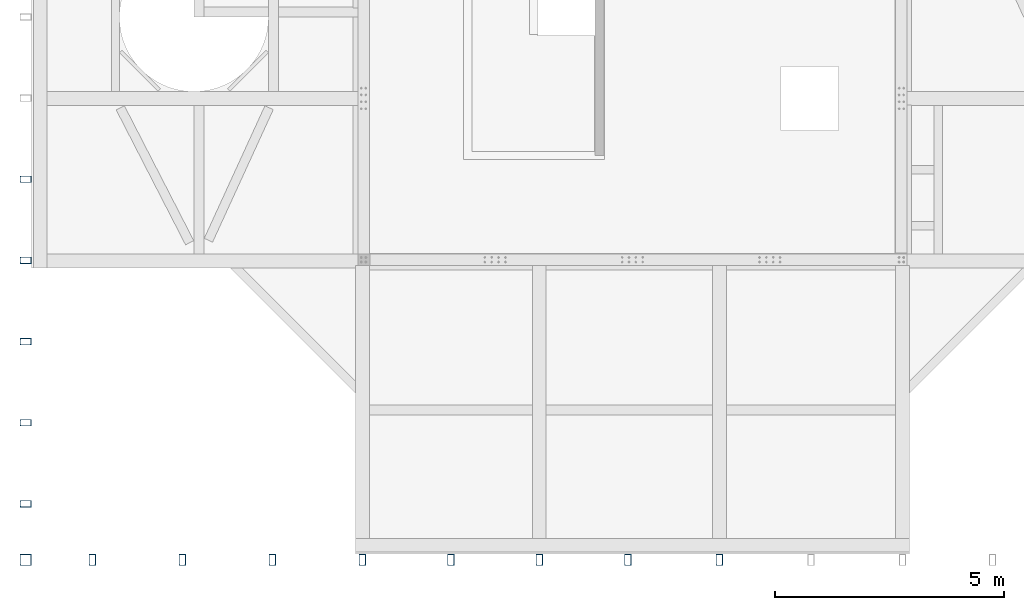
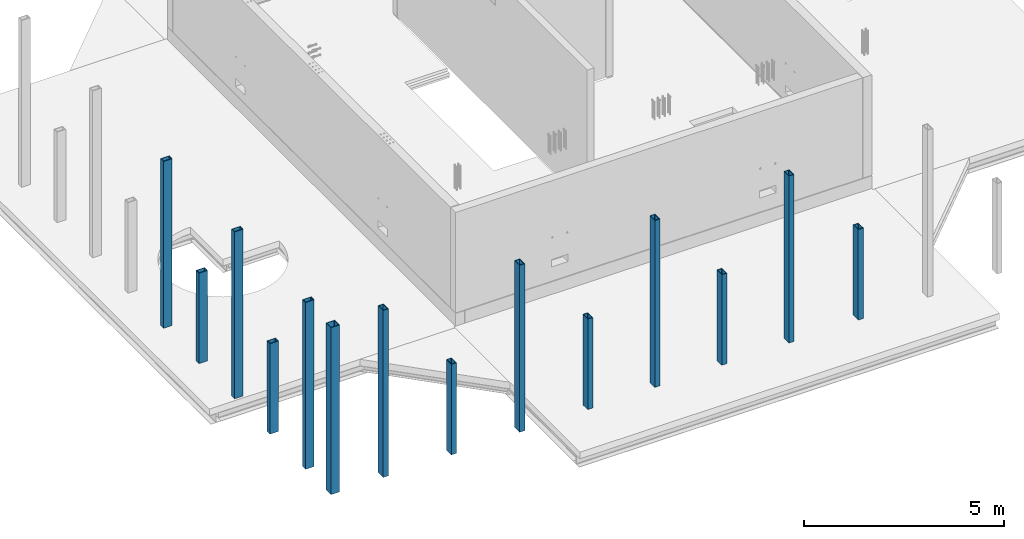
# One storey, part 1 of 16: 14 columns.
"""IFC2X3 building model written with IfcOpenShell, lengths in millimetres."""

from ifc_helpers import new_model, entity, si_unit, converted_unit, derived_unit, direction, frame, frame_2d, origin, place, context, subcontext, project, spatial, polyline, circle_curve, parameter, trimmed, segment, composite_curve, outline, extrude, source, transform, mapped, material, type_object, type_shapes, element, save


model = new_model("IFC2X3")

# Units and contexts
model_context = context("Model", 3, precision=0.01, world=origin(), true_north=direction((6.12303176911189e-17, 1.0)))
body_context = subcontext(model_context, "Body", "Model", "MODEL_VIEW")
ifc_project = project(units=[si_unit("LENGTHUNIT", "METRE", prefix="MILLI"), si_unit("AREAUNIT", "SQUARE_METRE"), si_unit("VOLUMEUNIT", "CUBIC_METRE"), converted_unit("PLANEANGLEUNIT", "DEGREE", entity("IfcRatioMeasure", 0.0174532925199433), si_unit("PLANEANGLEUNIT", "RADIAN"), dimensions=[0, 0, 0, 0, 0, 0, 0]), si_unit("MASSUNIT", "GRAM", prefix="KILO"), derived_unit("MASSDENSITYUNIT", [(si_unit("MASSUNIT", "GRAM", prefix="KILO"), 1), (si_unit("LENGTHUNIT", "METRE"), -3)]), si_unit("TIMEUNIT", "SECOND"), si_unit("FREQUENCYUNIT", "HERTZ"), si_unit("THERMODYNAMICTEMPERATUREUNIT", "DEGREE_CELSIUS"), derived_unit("THERMALTRANSMITTANCEUNIT", [(si_unit("MASSUNIT", "GRAM", prefix="KILO"), 1), (si_unit("THERMODYNAMICTEMPERATUREUNIT", "KELVIN"), -1), (si_unit("TIMEUNIT", "SECOND"), -3)]), derived_unit("VOLUMETRICFLOWRATEUNIT", [(si_unit("LENGTHUNIT", "METRE"), 3), (si_unit("TIMEUNIT", "SECOND"), -1)]), si_unit("ELECTRICCURRENTUNIT", "AMPERE"), si_unit("ELECTRICVOLTAGEUNIT", "VOLT"), si_unit("POWERUNIT", "WATT"), si_unit("FORCEUNIT", "NEWTON", prefix="KILO"), si_unit("ILLUMINANCEUNIT", "LUX"), si_unit("LUMINOUSFLUXUNIT", "LUMEN"), si_unit("LUMINOUSINTENSITYUNIT", "CANDELA"), derived_unit("USERDEFINED", [(si_unit("MASSUNIT", "GRAM", prefix="KILO"), -1), (si_unit("LENGTHUNIT", "METRE"), -2), (si_unit("TIMEUNIT", "SECOND"), 3), (si_unit("LUMINOUSFLUXUNIT", "LUMEN"), 1)]), derived_unit("LINEARVELOCITYUNIT", [(si_unit("LENGTHUNIT", "METRE"), 1), (si_unit("TIMEUNIT", "SECOND"), -1)]), si_unit("PRESSUREUNIT", "PASCAL"), derived_unit("USERDEFINED", [(si_unit("LENGTHUNIT", "METRE"), -2), (si_unit("MASSUNIT", "GRAM", prefix="KILO"), 1), (si_unit("TIMEUNIT", "SECOND"), -2)])], contexts=[model_context])

# Site, building, storey
site_placement = place(None, origin())
site = spatial("IfcSite", under=ifc_project, at=site_placement, Name="Default", CompositionType="ELEMENT")
building_placement = place(site_placement, origin())
building = spatial("IfcBuilding", under=site, at=building_placement, Name="niet gebruiken", CompositionType="ELEMENT")
storey_placement = place(building_placement, frame((0.0, 0.0, 183150.0)))
storey = spatial("IfcBuildingStorey", under=building, at=storey_placement, Name="58 achtenvijftigste verdieping", CompositionType="ELEMENT", Elevation=183150.0)

# Columns
ifc_material = material(Name="NLRS_h2_staal")
column_type_1 = type_object("IfcColumnType", Name="kolom buisprofiel rechthoekig RHSH_250x150x16", PredefinedType="COLUMN", material=ifc_material)
shared_shape_1 = source(origin(), body_context, "Body", "SweptSolid", [
    extrude(outline(polyline([(-125.0, -75.0), (125.0, -75.0), (125.0, 75.0), (-125.0, 75.0), (-125.0, -75.0)]), holes=[composite_curve([segment(trimmed(circle_curve(frame_2d((-96.5, -46.5), x_axis=(0.0, 1.0)), 12.5), [parameter(90.0)], [parameter(180.0)], True, "PARAMETER"), False, "CONTINUOUS"), segment(polyline([(-109.0, -46.5), (-109.0, 46.5)]), True, "CONTINUOUS"), segment(trimmed(circle_curve(frame_2d((-96.5, 46.5), x_axis=(0.0, 1.0)), 12.5), [parameter(360.0)], [parameter(89.9999999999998)], True, "PARAMETER"), False, "CONTINUOUS"), segment(polyline([(-96.5, 59.0), (96.5, 59.0)]), True, "CONTINUOUS"), segment(trimmed(circle_curve(frame_2d((96.5, 46.5), x_axis=(0.0, 1.0)), 12.5), [parameter(270.0)], [parameter(360.0)], True, "PARAMETER"), False, "CONTINUOUS"), segment(polyline([(109.0, 46.5), (109.0, -46.5)]), True, "CONTINUOUS"), segment(trimmed(circle_curve(frame_2d((96.5, -46.5), x_axis=(0.0, 1.0)), 12.5), [parameter(180.0)], [parameter(270.0)], True, "PARAMETER"), False, "CONTINUOUS"), segment(polyline([(96.5, -59.0), (-96.5, -59.0)]), True, "CONTINUOUS")], self_intersect=False)]), frame((129950.0, 3870.0, 184200.0), z_axis=(0.0, 0.0, 1.0), x_axis=(0.0, -1.0, 0.0)), (0.0, 0.0, 1.0), 5089.99999999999),
])
type_shapes(column_type_1, [shared_shape_1])
column_1_placement = place(storey_placement, frame((0.0, 0.0, -183150.0)))
element("IfcColumn", 1, at=column_1_placement, inside=storey, type_object=column_type_1, material=ifc_material, Name="NLRS_28.11_SCO_TLB_stalen kolom buisprofiel rechthoekig_gen:kolom buisprofiel rechthoekig RHSH_250x150x16", ObjectType="kolom buisprofiel rechthoekig RHSH_250x150x16", context=body_context, shape_type="MappedRepresentation", body=[
    mapped(shared_shape_1, transform((0.0, 0.0, 0.0), scale=1.0)),
])
column_type_2 = type_object("IfcColumnType", Name="kolom buisprofiel warmgevormd vierkant SHSH_250x250x16", PredefinedType="COLUMN", material=ifc_material)
shared_shape_2 = source(origin(), body_context, "Body", "SweptSolid", [
    extrude(outline(polyline([(-125.0, -125.0), (125.0, -125.0), (125.0, 125.0), (-125.0, 125.0), (-125.0, -125.0)]), holes=[composite_curve([segment(trimmed(circle_curve(frame_2d((-99.0, -99.0), x_axis=(0.0, 1.0)), 10.0), [parameter(90.0000000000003)], [parameter(180.0)], True, "PARAMETER"), False, "CONTINUOUS"), segment(polyline([(-109.0, -99.0), (-109.0, 99.0)]), True, "CONTINUOUS"), segment(trimmed(circle_curve(frame_2d((-99.0, 99.0), x_axis=(0.0, 1.0)), 10.0), [parameter(0.0)], [parameter(89.9999999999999)], True, "PARAMETER"), False, "CONTINUOUS"), segment(polyline([(-99.0, 109.0), (99.0, 109.0)]), True, "CONTINUOUS"), segment(trimmed(circle_curve(frame_2d((99.0, 99.0), x_axis=(0.0, 1.0)), 10.0), [parameter(270.0)], [parameter(360.0)], True, "PARAMETER"), False, "CONTINUOUS"), segment(polyline([(109.0, 99.0), (109.0, -99.0)]), True, "CONTINUOUS"), segment(trimmed(circle_curve(frame_2d((99.0, -99.0), x_axis=(0.0, 1.0)), 10.0), [parameter(180.0)], [parameter(270.0)], True, "PARAMETER"), False, "CONTINUOUS"), segment(polyline([(99.0, -109.0), (-99.0, -109.0)]), True, "CONTINUOUS")], self_intersect=False)]), frame((128495.0, 3870.0, 184200.0), z_axis=(0.0, 0.0, 1.0), x_axis=(0.0, -1.0, 0.0)), (0.0, 0.0, 1.0), 5089.99999999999),
])
type_shapes(column_type_2, [shared_shape_2])
column_2_placement = place(storey_placement, frame((0.0, 0.0, -183150.0)))
element("IfcColumn", 2, at=column_2_placement, inside=storey, type_object=column_type_2, material=ifc_material, Name="NLRS_28.11_SCO_TLB_stalen kolom buisprofiel warmgevormd vierkant_gen:kolom buisprofiel warmgevormd vierkant SHSH_250x250x16", ObjectType="kolom buisprofiel warmgevormd vierkant SHSH_250x250x16", context=body_context, shape_type="MappedRepresentation", body=[
    mapped(shared_shape_2, transform((0.0, 0.0, 0.0), scale=1.0)),
])
column_type_3 = type_object("IfcColumnType", Name="kolom buisprofiel rechthoekig RHSH_250x150x16", PredefinedType="COLUMN", material=ifc_material)
shared_shape_3 = source(origin(), body_context, "Body", "SweptSolid", [
    extrude(outline(polyline([(-125.0, -75.0), (125.0, -75.0), (125.0, 75.0), (-125.0, 75.0), (-125.0, -75.0)]), holes=[composite_curve([segment(trimmed(circle_curve(frame_2d((-96.5, -46.5), x_axis=(0.0, 1.0)), 12.5), [parameter(90.0)], [parameter(180.0)], True, "PARAMETER"), False, "CONTINUOUS"), segment(polyline([(-109.0, -46.5), (-109.0, 46.5)]), True, "CONTINUOUS"), segment(trimmed(circle_curve(frame_2d((-96.5, 46.5), x_axis=(0.0, 1.0)), 12.5), [parameter(360.0)], [parameter(89.9999999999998)], True, "PARAMETER"), False, "CONTINUOUS"), segment(polyline([(-96.5, 59.0), (96.5, 59.0)]), True, "CONTINUOUS"), segment(trimmed(circle_curve(frame_2d((96.5, 46.5), x_axis=(0.0, 1.0)), 12.5), [parameter(270.0)], [parameter(360.0)], True, "PARAMETER"), False, "CONTINUOUS"), segment(polyline([(109.0, 46.5), (109.0, -46.5)]), True, "CONTINUOUS"), segment(trimmed(circle_curve(frame_2d((96.5, -46.5), x_axis=(0.0, 1.0)), 12.5), [parameter(180.0)], [parameter(270.0)], True, "PARAMETER"), False, "CONTINUOUS"), segment(polyline([(96.5, -59.0), (-96.5, -59.0)]), True, "CONTINUOUS")], self_intersect=False)]), frame((133883.333333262, 3870.0, 184200.0), z_axis=(0.0, 0.0, 1.0), x_axis=(0.0, -1.0, 0.0)), (0.0, 0.0, 1.0), 5089.99999999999),
])
type_shapes(column_type_3, [shared_shape_3])
column_3_placement = place(storey_placement, frame((0.0, 0.0, -183150.0)))
element("IfcColumn", 3, at=column_3_placement, inside=storey, type_object=column_type_3, material=ifc_material, Name="NLRS_28.11_SCO_TLB_stalen kolom buisprofiel rechthoekig_gen:kolom buisprofiel rechthoekig RHSH_250x150x16", ObjectType="kolom buisprofiel rechthoekig RHSH_250x150x16", context=body_context, shape_type="MappedRepresentation", body=[
    mapped(shared_shape_3, transform((0.0, 0.0, 0.0), scale=1.0)),
])
column_type_4 = type_object("IfcColumnType", Name="kolom buisprofiel rechthoekig RHSH_250x150x16", PredefinedType="COLUMN", material=ifc_material)
shared_shape_4 = source(origin(), body_context, "Body", "SweptSolid", [
    extrude(outline(polyline([(-125.0, -75.0), (125.0, -75.0), (125.0, 75.0), (-125.0, 75.0), (-125.0, -75.0)]), holes=[composite_curve([segment(trimmed(circle_curve(frame_2d((-96.5, -46.5), x_axis=(0.0, 1.0)), 12.5), [parameter(90.0)], [parameter(180.0)], True, "PARAMETER"), False, "CONTINUOUS"), segment(polyline([(-109.0, -46.5), (-109.0, 46.5)]), True, "CONTINUOUS"), segment(trimmed(circle_curve(frame_2d((-96.5, 46.5), x_axis=(0.0, 1.0)), 12.5), [parameter(360.0)], [parameter(89.9999999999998)], True, "PARAMETER"), False, "CONTINUOUS"), segment(polyline([(-96.5, 59.0), (96.5, 59.0)]), True, "CONTINUOUS"), segment(trimmed(circle_curve(frame_2d((96.5, 46.5), x_axis=(0.0, 1.0)), 12.5), [parameter(270.0)], [parameter(360.0)], True, "PARAMETER"), False, "CONTINUOUS"), segment(polyline([(109.0, 46.5), (109.0, -46.5)]), True, "CONTINUOUS"), segment(trimmed(circle_curve(frame_2d((96.5, -46.5), x_axis=(0.0, 1.0)), 12.5), [parameter(180.0)], [parameter(270.0)], True, "PARAMETER"), False, "CONTINUOUS"), segment(polyline([(96.5, -59.0), (-96.5, -59.0)]), True, "CONTINUOUS")], self_intersect=False)]), frame((137783.333333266, 3870.0, 184200.0), z_axis=(0.0, 0.0, 1.0), x_axis=(0.0, -1.0, 0.0)), (0.0, 0.0, 1.0), 5089.99999999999),
])
type_shapes(column_type_4, [shared_shape_4])
column_4_placement = place(storey_placement, frame((0.0, 0.0, -183150.0)))
element("IfcColumn", 4, at=column_4_placement, inside=storey, type_object=column_type_4, material=ifc_material, Name="NLRS_28.11_SCO_TLB_stalen kolom buisprofiel rechthoekig_gen:kolom buisprofiel rechthoekig RHSH_250x150x16", ObjectType="kolom buisprofiel rechthoekig RHSH_250x150x16", context=body_context, shape_type="MappedRepresentation", body=[
    mapped(shared_shape_4, transform((0.0, 0.0, 0.0), scale=1.0)),
])
column_type_5 = type_object("IfcColumnType", Name="kolom buisprofiel rechthoekig RHSH_250x150x16", PredefinedType="COLUMN", material=ifc_material)
shared_shape_5 = source(origin(), body_context, "Body", "SweptSolid", [
    extrude(outline(polyline([(-125.0, -75.0), (125.0, -75.0), (125.0, 75.0), (-125.0, 75.0), (-125.0, -75.0)]), holes=[composite_curve([segment(trimmed(circle_curve(frame_2d((-96.4999999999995, -46.4999999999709), x_axis=(0.0, 1.0)), 12.5), [parameter(90.0)], [parameter(180.0)], True, "PARAMETER"), False, "CONTINUOUS"), segment(polyline([(-109.0, -46.4999999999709), (-109.0, 46.5)]), True, "CONTINUOUS"), segment(trimmed(circle_curve(frame_2d((-96.4999999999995, 46.5), x_axis=(0.0, 1.0)), 12.5), [parameter(360.0)], [parameter(89.9999999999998)], True, "PARAMETER"), False, "CONTINUOUS"), segment(polyline([(-96.4999999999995, 59.0), (96.5000000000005, 59.0)]), True, "CONTINUOUS"), segment(trimmed(circle_curve(frame_2d((96.5000000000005, 46.5), x_axis=(0.0, 1.0)), 12.5), [parameter(270.0)], [parameter(360.0)], True, "PARAMETER"), False, "CONTINUOUS"), segment(polyline([(109.0, 46.5), (109.0, -46.4999999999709)]), True, "CONTINUOUS"), segment(trimmed(circle_curve(frame_2d((96.5000000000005, -46.4999999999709), x_axis=(0.0, 1.0)), 12.5), [parameter(180.0)], [parameter(270.0)], True, "PARAMETER"), False, "CONTINUOUS"), segment(polyline([(96.5000000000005, -59.0), (-96.4999999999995, -59.0)]), True, "CONTINUOUS")], self_intersect=False)]), frame((141650.0, 3870.0, 184200.0), z_axis=(0.0, 0.0, 1.0), x_axis=(0.0, -1.0, 0.0)), (0.0, 0.0, 1.0), 5089.99999999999),
])
type_shapes(column_type_5, [shared_shape_5])
column_5_placement = place(storey_placement, frame((0.0, 0.0, -183150.0)))
element("IfcColumn", 5, at=column_5_placement, inside=storey, type_object=column_type_5, material=ifc_material, Name="NLRS_28.11_SCO_TLB_stalen kolom buisprofiel rechthoekig_gen:kolom buisprofiel rechthoekig RHSH_250x150x16", ObjectType="kolom buisprofiel rechthoekig RHSH_250x150x16", context=body_context, shape_type="MappedRepresentation", body=[
    mapped(shared_shape_5, transform((0.0, 0.0, 0.0), scale=1.0)),
])
column_type_6 = type_object("IfcColumnType", Name="kolom buisprofiel rechthoekig RHSH_250x150x16", PredefinedType="COLUMN", material=ifc_material)
shared_shape_6 = source(origin(), body_context, "Body", "SweptSolid", [
    extrude(outline(polyline([(-125.0, -75.0), (125.0, -75.0), (125.0, 75.0), (-125.0, 75.0), (-125.0, -75.0)]), holes=[composite_curve([segment(trimmed(circle_curve(frame_2d((-96.4999999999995, -46.5), x_axis=(0.0, 1.0)), 12.5), [parameter(90.0)], [parameter(180.0)], True, "PARAMETER"), False, "CONTINUOUS"), segment(polyline([(-109.0, -46.5), (-109.0, 46.5)]), True, "CONTINUOUS"), segment(trimmed(circle_curve(frame_2d((-96.4999999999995, 46.5), x_axis=(0.0, 1.0)), 12.5), [parameter(360.0)], [parameter(89.9999999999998)], True, "PARAMETER"), False, "CONTINUOUS"), segment(polyline([(-96.4999999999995, 59.0), (96.5000000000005, 59.0)]), True, "CONTINUOUS"), segment(trimmed(circle_curve(frame_2d((96.5000000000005, 46.5), x_axis=(0.0, 1.0)), 12.5), [parameter(270.0)], [parameter(360.0)], True, "PARAMETER"), False, "CONTINUOUS"), segment(polyline([(109.0, 46.5), (109.0, -46.5)]), True, "CONTINUOUS"), segment(trimmed(circle_curve(frame_2d((96.5000000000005, -46.5), x_axis=(0.0, 1.0)), 12.5), [parameter(180.0)], [parameter(270.0)], True, "PARAMETER"), False, "CONTINUOUS"), segment(polyline([(96.5000000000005, -59.0), (-96.4999999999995, -59.0)]), True, "CONTINUOUS")], self_intersect=False)]), frame((131916.666666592, 3870.0, 184200.0), z_axis=(0.0, 0.0, 1.0), x_axis=(0.0, -1.0, 0.0)), (0.0, 0.0, 1.0), 2760.0),
])
type_shapes(column_type_6, [shared_shape_6])
column_6_placement = place(storey_placement, frame((0.0, 0.0, -183150.0)))
element("IfcColumn", 6, at=column_6_placement, inside=storey, type_object=column_type_6, material=ifc_material, Name="NLRS_28.11_SCO_TLB_stalen kolom buisprofiel rechthoekig_gen:kolom buisprofiel rechthoekig RHSH_250x150x16", ObjectType="kolom buisprofiel rechthoekig RHSH_250x150x16", context=body_context, shape_type="MappedRepresentation", body=[
    mapped(shared_shape_6, transform((0.0, 0.0, 0.0), scale=1.0)),
])
column_type_7 = type_object("IfcColumnType", Name="kolom buisprofiel rechthoekig RHSH_250x150x16", PredefinedType="COLUMN", material=ifc_material)
shared_shape_7 = source(origin(), body_context, "Body", "SweptSolid", [
    extrude(outline(polyline([(-125.0, -75.0), (125.0, -75.0), (125.0, 75.0), (-125.0, 75.0), (-125.0, -75.0)]), holes=[composite_curve([segment(trimmed(circle_curve(frame_2d((-96.4999999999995, -46.5), x_axis=(0.0, 1.0)), 12.5), [parameter(90.0)], [parameter(180.0)], True, "PARAMETER"), False, "CONTINUOUS"), segment(polyline([(-109.0, -46.5), (-109.0, 46.5)]), True, "CONTINUOUS"), segment(trimmed(circle_curve(frame_2d((-96.4999999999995, 46.5), x_axis=(0.0, 1.0)), 12.5), [parameter(360.0)], [parameter(89.9999999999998)], True, "PARAMETER"), False, "CONTINUOUS"), segment(polyline([(-96.4999999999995, 59.0), (96.5000000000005, 59.0)]), True, "CONTINUOUS"), segment(trimmed(circle_curve(frame_2d((96.5000000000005, 46.5), x_axis=(0.0, 1.0)), 12.5), [parameter(270.0)], [parameter(360.0)], True, "PARAMETER"), False, "CONTINUOUS"), segment(polyline([(109.0, 46.5), (109.0, -46.5)]), True, "CONTINUOUS"), segment(trimmed(circle_curve(frame_2d((96.5000000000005, -46.5), x_axis=(0.0, 1.0)), 12.5), [parameter(180.0)], [parameter(270.0)], True, "PARAMETER"), False, "CONTINUOUS"), segment(polyline([(96.5000000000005, -59.0), (-96.4999999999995, -59.0)]), True, "CONTINUOUS")], self_intersect=False)]), frame((135850.0, 3870.0, 184200.0), z_axis=(0.0, 0.0, 1.0), x_axis=(0.0, -1.0, 0.0)), (0.0, 0.0, 1.0), 2760.0),
])
type_shapes(column_type_7, [shared_shape_7])
column_7_placement = place(storey_placement, frame((0.0, 0.0, -183150.0)))
element("IfcColumn", 7, at=column_7_placement, inside=storey, type_object=column_type_7, material=ifc_material, Name="NLRS_28.11_SCO_TLB_stalen kolom buisprofiel rechthoekig_gen:kolom buisprofiel rechthoekig RHSH_250x150x16", ObjectType="kolom buisprofiel rechthoekig RHSH_250x150x16", context=body_context, shape_type="MappedRepresentation", body=[
    mapped(shared_shape_7, transform((0.0, 0.0, 0.0), scale=1.0)),
])
column_type_8 = type_object("IfcColumnType", Name="kolom buisprofiel rechthoekig RHSH_250x150x16", PredefinedType="COLUMN", material=ifc_material)
shared_shape_8 = source(origin(), body_context, "Body", "SweptSolid", [
    extrude(outline(polyline([(-125.0, -75.0), (125.0, -75.0), (125.0, 75.0), (-125.0, 75.0), (-125.0, -75.0)]), holes=[composite_curve([segment(trimmed(circle_curve(frame_2d((-96.5000000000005, -46.5), x_axis=(0.0, 1.0)), 12.5), [parameter(90.0)], [parameter(180.0)], True, "PARAMETER"), False, "CONTINUOUS"), segment(polyline([(-109.0, -46.5), (-109.0, 46.5)]), True, "CONTINUOUS"), segment(trimmed(circle_curve(frame_2d((-96.5000000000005, 46.5), x_axis=(0.0, 1.0)), 12.5), [parameter(360.0)], [parameter(89.9999999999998)], True, "PARAMETER"), False, "CONTINUOUS"), segment(polyline([(-96.5000000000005, 59.0), (96.4999999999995, 59.0)]), True, "CONTINUOUS"), segment(trimmed(circle_curve(frame_2d((96.4999999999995, 46.5), x_axis=(0.0, 1.0)), 12.5), [parameter(270.0)], [parameter(360.0)], True, "PARAMETER"), False, "CONTINUOUS"), segment(polyline([(109.0, 46.5), (109.0, -46.5)]), True, "CONTINUOUS"), segment(trimmed(circle_curve(frame_2d((96.4999999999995, -46.5), x_axis=(0.0, 1.0)), 12.5), [parameter(180.0)], [parameter(270.0)], True, "PARAMETER"), False, "CONTINUOUS"), segment(polyline([(96.4999999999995, -59.0), (-96.5000000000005, -59.0)]), True, "CONTINUOUS")], self_intersect=False)]), frame((139716.666666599, 3870.0, 184200.0), z_axis=(0.0, 0.0, 1.0), x_axis=(0.0, -1.0, 0.0)), (0.0, 0.0, 1.0), 2760.0),
])
type_shapes(column_type_8, [shared_shape_8])
column_8_placement = place(storey_placement, frame((0.0, 0.0, -183150.0)))
element("IfcColumn", 8, at=column_8_placement, inside=storey, type_object=column_type_8, material=ifc_material, Name="NLRS_28.11_SCO_TLB_stalen kolom buisprofiel rechthoekig_gen:kolom buisprofiel rechthoekig RHSH_250x150x16", ObjectType="kolom buisprofiel rechthoekig RHSH_250x150x16", context=body_context, shape_type="MappedRepresentation", body=[
    mapped(shared_shape_8, transform((0.0, 0.0, 0.0), scale=1.0)),
])
column_type_9 = type_object("IfcColumnType", Name="kolom buisprofiel rechthoekig RHSH_250x150x16", PredefinedType="COLUMN", material=ifc_material)
shared_shape_9 = source(origin(), body_context, "Body", "SweptSolid", [
    extrude(outline(polyline([(-125.0, -75.0), (125.0, -75.0), (125.0, 75.0), (-125.0, 75.0), (-125.0, -75.0)]), holes=[composite_curve([segment(trimmed(circle_curve(frame_2d((-96.5, -46.5), x_axis=(0.0, 1.0)), 12.5), [parameter(90.0)], [parameter(180.0)], True, "PARAMETER"), False, "CONTINUOUS"), segment(polyline([(-109.0, -46.5), (-109.0, 46.5)]), True, "CONTINUOUS"), segment(trimmed(circle_curve(frame_2d((-96.5, 46.5), x_axis=(0.0, 1.0)), 12.5), [parameter(360.0)], [parameter(89.9999999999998)], True, "PARAMETER"), False, "CONTINUOUS"), segment(polyline([(-96.5, 59.0), (96.5, 59.0)]), True, "CONTINUOUS"), segment(trimmed(circle_curve(frame_2d((96.5, 46.5), x_axis=(0.0, 1.0)), 12.5), [parameter(270.0)], [parameter(360.0)], True, "PARAMETER"), False, "CONTINUOUS"), segment(polyline([(109.0, 46.5), (109.0, -46.5)]), True, "CONTINUOUS"), segment(trimmed(circle_curve(frame_2d((96.5, -46.5), x_axis=(0.0, 1.0)), 12.5), [parameter(180.0)], [parameter(270.0)], True, "PARAMETER"), False, "CONTINUOUS"), segment(polyline([(96.5, -59.0), (-96.5, -59.0)]), True, "CONTINUOUS")], self_intersect=False)]), frame((143650.0, 3870.0, 184200.0), z_axis=(0.0, 0.0, 1.0), x_axis=(0.0, -1.0, 0.0)), (0.0, 0.0, 1.0), 2760.0),
])
type_shapes(column_type_9, [shared_shape_9])
column_9_placement = place(storey_placement, frame((0.0, 0.0, -183150.0)))
element("IfcColumn", 9, at=column_9_placement, inside=storey, type_object=column_type_9, material=ifc_material, Name="NLRS_28.11_SCO_TLB_stalen kolom buisprofiel rechthoekig_gen:kolom buisprofiel rechthoekig RHSH_250x150x16", ObjectType="kolom buisprofiel rechthoekig RHSH_250x150x16", context=body_context, shape_type="MappedRepresentation", body=[
    mapped(shared_shape_9, transform((0.0, 0.0, 0.0), scale=1.0)),
])
column_type_10 = type_object("IfcColumnType", Name="kolom buisprofiel rechthoekig RHSH_250x150x16", PredefinedType="COLUMN", material=ifc_material)
shared_shape_10 = source(origin(), body_context, "Body", "SweptSolid", [
    extrude(outline(polyline([(-125.0, -75.0), (125.0, -75.0), (125.0, 75.0), (-125.0, 75.0), (-125.0, -75.0)]), holes=[composite_curve([segment(trimmed(circle_curve(frame_2d((-96.5000000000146, -46.5000000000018), x_axis=(0.0, 1.0)), 12.5), [parameter(90.0)], [parameter(180.0)], True, "PARAMETER"), False, "CONTINUOUS"), segment(polyline([(-109.0, -46.5000000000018), (-109.0, 46.5)]), True, "CONTINUOUS"), segment(trimmed(circle_curve(frame_2d((-96.5000000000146, 46.5), x_axis=(0.0, 1.0)), 12.5), [parameter(360.0)], [parameter(89.9999999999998)], True, "PARAMETER"), False, "CONTINUOUS"), segment(polyline([(-96.5, 59.0), (96.4999999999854, 59.0)]), True, "CONTINUOUS"), segment(trimmed(circle_curve(frame_2d((96.4999999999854, 46.5), x_axis=(0.0, 1.0)), 12.5), [parameter(270.0)], [parameter(360.0)], True, "PARAMETER"), False, "CONTINUOUS"), segment(polyline([(109.0, 46.5), (109.0, -46.5000000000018)]), True, "CONTINUOUS"), segment(trimmed(circle_curve(frame_2d((96.4999999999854, -46.5000000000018), x_axis=(0.0, 1.0)), 12.5), [parameter(180.0)], [parameter(270.0)], True, "PARAMETER"), False, "CONTINUOUS"), segment(polyline([(96.4999999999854, -59.0), (-96.5, -59.0)]), True, "CONTINUOUS")], self_intersect=False)]), frame((128495.0, 12182.5000000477, 184200.0)), (0.0, 0.0, 1.0), 5089.99999999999),
])
type_shapes(column_type_10, [shared_shape_10])
column_10_placement = place(storey_placement, frame((0.0, 0.0, -183150.0)))
element("IfcColumn", 10, at=column_10_placement, inside=storey, type_object=column_type_10, material=ifc_material, Name="NLRS_28.11_SCO_TLB_stalen kolom buisprofiel rechthoekig_gen:kolom buisprofiel rechthoekig RHSH_250x150x16", ObjectType="kolom buisprofiel rechthoekig RHSH_250x150x16", context=body_context, shape_type="MappedRepresentation", body=[
    mapped(shared_shape_10, transform((0.0, 0.0, 0.0), scale=1.0)),
])
column_type_11 = type_object("IfcColumnType", Name="kolom buisprofiel rechthoekig RHSH_250x150x16", PredefinedType="COLUMN", material=ifc_material)
shared_shape_11 = source(origin(), body_context, "Body", "SweptSolid", [
    extrude(outline(polyline([(-125.0, -75.0), (125.0, -75.0), (125.0, 75.0), (-125.0, 75.0), (-125.0, -75.0)]), holes=[composite_curve([segment(trimmed(circle_curve(frame_2d((-96.5000000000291, -46.5), x_axis=(0.0, 1.0)), 12.5), [parameter(90.0)], [parameter(180.0)], True, "PARAMETER"), False, "CONTINUOUS"), segment(polyline([(-109.0, -46.5), (-109.0, 46.5)]), True, "CONTINUOUS"), segment(trimmed(circle_curve(frame_2d((-96.5000000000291, 46.5), x_axis=(0.0, 1.0)), 12.5), [parameter(360.0)], [parameter(89.9999999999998)], True, "PARAMETER"), False, "CONTINUOUS"), segment(polyline([(-96.5, 59.0), (96.4999999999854, 59.0)]), True, "CONTINUOUS"), segment(trimmed(circle_curve(frame_2d((96.4999999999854, 46.5), x_axis=(0.0, 1.0)), 12.5), [parameter(270.0)], [parameter(360.0)], True, "PARAMETER"), False, "CONTINUOUS"), segment(polyline([(109.0, 46.5), (109.0, -46.5)]), True, "CONTINUOUS"), segment(trimmed(circle_curve(frame_2d((96.4999999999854, -46.5), x_axis=(0.0, 1.0)), 12.5), [parameter(180.0)], [parameter(270.0)], True, "PARAMETER"), False, "CONTINUOUS"), segment(polyline([(96.4999999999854, -59.0), (-96.5, -59.0)]), True, "CONTINUOUS")], self_intersect=False)]), frame((128495.0, 10410.0, 184200.0)), (0.0, 0.0, 1.0), 2760.0),
])
type_shapes(column_type_11, [shared_shape_11])
column_11_placement = place(storey_placement, frame((0.0, 0.0, -183150.0)))
element("IfcColumn", 11, at=column_11_placement, inside=storey, type_object=column_type_11, material=ifc_material, Name="NLRS_28.11_SCO_TLB_stalen kolom buisprofiel rechthoekig_gen:kolom buisprofiel rechthoekig RHSH_250x150x16", ObjectType="kolom buisprofiel rechthoekig RHSH_250x150x16", context=body_context, shape_type="MappedRepresentation", body=[
    mapped(shared_shape_11, transform((0.0, 0.0, 0.0), scale=1.0)),
])
column_type_12 = type_object("IfcColumnType", Name="kolom buisprofiel rechthoekig RHSH_250x150x16", PredefinedType="COLUMN", material=ifc_material)
shared_shape_12 = source(origin(), body_context, "Body", "SweptSolid", [
    extrude(outline(polyline([(-125.0, -75.0), (125.0, -75.0), (125.0, 75.0), (-125.0, 75.0), (-125.0, -75.0)]), holes=[composite_curve([segment(trimmed(circle_curve(frame_2d((-96.5000000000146, -46.5), x_axis=(0.0, 1.0)), 12.5), [parameter(90.0)], [parameter(180.0)], True, "PARAMETER"), False, "CONTINUOUS"), segment(polyline([(-109.0, -46.5), (-109.0, 46.5)]), True, "CONTINUOUS"), segment(trimmed(circle_curve(frame_2d((-96.5000000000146, 46.5), x_axis=(0.0, 1.0)), 12.5), [parameter(360.0)], [parameter(89.9999999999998)], True, "PARAMETER"), False, "CONTINUOUS"), segment(polyline([(-96.5, 59.0), (96.4999999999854, 59.0)]), True, "CONTINUOUS"), segment(trimmed(circle_curve(frame_2d((96.4999999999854, 46.5), x_axis=(0.0, 1.0)), 12.5), [parameter(270.0)], [parameter(360.0)], True, "PARAMETER"), False, "CONTINUOUS"), segment(polyline([(109.0, 46.4999999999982), (109.0, -46.5)]), True, "CONTINUOUS"), segment(trimmed(circle_curve(frame_2d((96.4999999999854, -46.5), x_axis=(0.0, 1.0)), 12.5), [parameter(180.0)], [parameter(270.0)], True, "PARAMETER"), False, "CONTINUOUS"), segment(polyline([(96.4999999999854, -59.0), (-96.5, -59.0)]), True, "CONTINUOUS")], self_intersect=False)]), frame((128495.0, 8637.50000005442, 184200.0)), (0.0, 0.0, 1.0), 5089.99999999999),
])
type_shapes(column_type_12, [shared_shape_12])
column_12_placement = place(storey_placement, frame((0.0, 0.0, -183150.0)))
element("IfcColumn", 12, at=column_12_placement, inside=storey, type_object=column_type_12, material=ifc_material, Name="NLRS_28.11_SCO_TLB_stalen kolom buisprofiel rechthoekig_gen:kolom buisprofiel rechthoekig RHSH_250x150x16", ObjectType="kolom buisprofiel rechthoekig RHSH_250x150x16", context=body_context, shape_type="MappedRepresentation", body=[
    mapped(shared_shape_12, transform((0.0, 0.0, 0.0), scale=1.0)),
])
column_type_13 = type_object("IfcColumnType", Name="kolom buisprofiel rechthoekig RHSH_250x150x16", PredefinedType="COLUMN", material=ifc_material)
shared_shape_13 = source(origin(), body_context, "Body", "SweptSolid", [
    extrude(outline(polyline([(-125.0, -75.0), (125.0, -75.0), (125.0, 75.0), (-125.0, 75.0), (-125.0, -75.0)]), holes=[composite_curve([segment(trimmed(circle_curve(frame_2d((-96.5000000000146, -46.5), x_axis=(0.0, 1.0)), 12.5), [parameter(90.0)], [parameter(180.0)], True, "PARAMETER"), False, "CONTINUOUS"), segment(polyline([(-109.0, -46.5), (-109.0, 46.5000000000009)]), True, "CONTINUOUS"), segment(trimmed(circle_curve(frame_2d((-96.5000000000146, 46.5000000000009), x_axis=(0.0, 1.0)), 12.5), [parameter(360.0)], [parameter(89.9999999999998)], True, "PARAMETER"), False, "CONTINUOUS"), segment(polyline([(-96.5, 59.0), (96.4999999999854, 59.0)]), True, "CONTINUOUS"), segment(trimmed(circle_curve(frame_2d((96.4999999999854, 46.5000000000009), x_axis=(0.0, 1.0)), 12.5), [parameter(270.0)], [parameter(360.0)], True, "PARAMETER"), False, "CONTINUOUS"), segment(polyline([(109.0, 46.5), (109.0, -46.5)]), True, "CONTINUOUS"), segment(trimmed(circle_curve(frame_2d((96.4999999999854, -46.5), x_axis=(0.0, 1.0)), 12.5), [parameter(180.0)], [parameter(270.0)], True, "PARAMETER"), False, "CONTINUOUS"), segment(polyline([(96.4999999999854, -59.0), (-96.5, -59.0)]), True, "CONTINUOUS")], self_intersect=False)]), frame((128495.0, 6865.0, 184200.0)), (0.0, 0.0, 1.0), 2760.0),
])
type_shapes(column_type_13, [shared_shape_13])
column_13_placement = place(storey_placement, frame((0.0, 0.0, -183150.0)))
element("IfcColumn", 13, at=column_13_placement, inside=storey, type_object=column_type_13, material=ifc_material, Name="NLRS_28.11_SCO_TLB_stalen kolom buisprofiel rechthoekig_gen:kolom buisprofiel rechthoekig RHSH_250x150x16", ObjectType="kolom buisprofiel rechthoekig RHSH_250x150x16", context=body_context, shape_type="MappedRepresentation", body=[
    mapped(shared_shape_13, transform((0.0, 0.0, 0.0), scale=1.0)),
])
column_type_14 = type_object("IfcColumnType", Name="kolom buisprofiel rechthoekig RHSH_250x150x16", PredefinedType="COLUMN", material=ifc_material)
shared_shape_14 = source(origin(), body_context, "Body", "SweptSolid", [
    extrude(outline(polyline([(-125.0, -75.0), (125.0, -75.0), (125.0, 75.0), (-125.0, 75.0), (-125.0, -75.0)]), holes=[composite_curve([segment(trimmed(circle_curve(frame_2d((-96.5000000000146, -46.5), x_axis=(0.0, 1.0)), 12.5), [parameter(90.0)], [parameter(180.0)], True, "PARAMETER"), False, "CONTINUOUS"), segment(polyline([(-109.0, -46.5), (-109.0, 46.5)]), True, "CONTINUOUS"), segment(trimmed(circle_curve(frame_2d((-96.5000000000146, 46.5), x_axis=(0.0, 1.0)), 12.5), [parameter(360.0)], [parameter(89.9999999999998)], True, "PARAMETER"), False, "CONTINUOUS"), segment(polyline([(-96.5, 59.0), (96.4999999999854, 59.0)]), True, "CONTINUOUS"), segment(trimmed(circle_curve(frame_2d((96.4999999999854, 46.5), x_axis=(0.0, 1.0)), 12.5), [parameter(270.0)], [parameter(360.0)], True, "PARAMETER"), False, "CONTINUOUS"), segment(polyline([(109.0, 46.4999999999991), (109.0, -46.5)]), True, "CONTINUOUS"), segment(trimmed(circle_curve(frame_2d((96.4999999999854, -46.5), x_axis=(0.0, 1.0)), 12.5), [parameter(180.0)], [parameter(270.0)], True, "PARAMETER"), False, "CONTINUOUS"), segment(polyline([(96.4999999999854, -59.0), (-96.5, -59.0)]), True, "CONTINUOUS")], self_intersect=False)]), frame((128495.0, 5092.50000005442, 184200.0)), (0.0, 0.0, 1.0), 5089.99999999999),
])
type_shapes(column_type_14, [shared_shape_14])
column_14_placement = place(storey_placement, frame((0.0, 0.0, -183150.0)))
element("IfcColumn", 14, at=column_14_placement, inside=storey, type_object=column_type_14, material=ifc_material, Name="NLRS_28.11_SCO_TLB_stalen kolom buisprofiel rechthoekig_gen:kolom buisprofiel rechthoekig RHSH_250x150x16", ObjectType="kolom buisprofiel rechthoekig RHSH_250x150x16", context=body_context, shape_type="MappedRepresentation", body=[
    mapped(shared_shape_14, transform((0.0, 0.0, 0.0), scale=1.0)),
])

save(model, "model.ifc")
